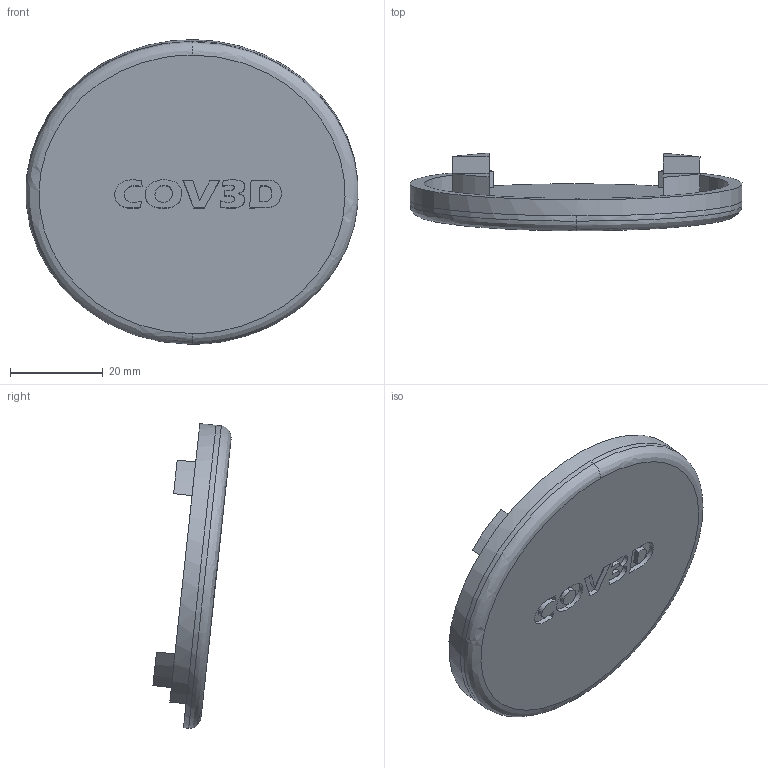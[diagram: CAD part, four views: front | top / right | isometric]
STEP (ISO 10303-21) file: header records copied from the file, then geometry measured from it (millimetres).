
FILE_DESCRIPTION(/* description */ (''),/* implementation_level */ '2;1');
FILE_NAME(/* name */ 'L-MEDI~1',/* time_stamp */ '2020-04-10T21:43:12+03:00',/* author */ (''),/* organization */ (''),/* preprocessor_version */ 'ST-DEVELOPER v16.5',/* originating_system */ '',/* authorisation */ '');
FILE_SCHEMA (('AUTOMOTIVE_DESIGN'));
Length unit declared in the file: millimetre
Products named in the file (1): Document
Bounding box: 71.44 x 16.82 x 65.58 mm (x, y, z)
Volume: 15136 mm3; surface area: 10008.1 mm2
Topology: 1 solids, 1 shells, 67 faces, 158 edges, 104 vertices
Faces by surface type: bspline 44, plane 23
Entity records: 2836 total; most frequent: CARTESIAN_POINT 1768, ORIENTED_EDGE 316, EDGE_CURVE 158, B_SPLINE_CURVE_WITH_KNOTS 131, VERTEX_POINT 104, EDGE_LOOP 78, ADVANCED_FACE 67, FACE_OUTER_BOUND 67
